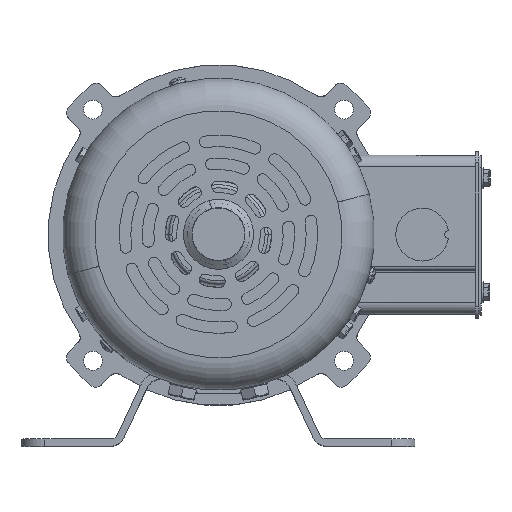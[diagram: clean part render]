
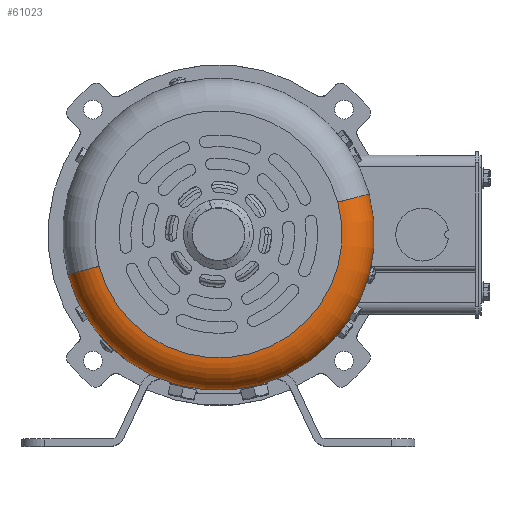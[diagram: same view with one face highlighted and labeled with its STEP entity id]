
A CAD part, top view. The second image highlights one B-rep face of the part: STEP entity #61023.
In plain terms, the highlighted toroidal (fillet/blend) face has major radius 51.943 mm and minor radius 13.589 mm.
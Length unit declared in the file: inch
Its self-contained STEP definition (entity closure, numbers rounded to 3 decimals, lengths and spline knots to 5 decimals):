
#173 = DIRECTION ( 'NONE',  ( 0.966, 0.259, 0. ) ) ;
#650 = AXIS2_PLACEMENT_3D ( 'NONE', #119745, #100584, #26594 ) ;
#9545 = DIRECTION ( 'NONE',  ( 0., 0., 1. ) ) ;
#13272 = CARTESIAN_POINT ( 'NONE',  ( 0., 0., 11.27556 ) ) ;
#15817 = ORIENTED_EDGE ( 'NONE', *, *, #93197, .F. ) ;
#16713 = CIRCLE ( 'NONE', #22767, 2.045 ) ;
#19947 = TOROIDAL_SURFACE ( 'NONE', #650, 2.045, 0.535 ) ;
#22044 = CARTESIAN_POINT ( 'NONE',  ( -1.97532, -0.52928, 11.27556 ) ) ;
#22442 = DIRECTION ( 'NONE',  ( -0.259, 0.966, 0. ) ) ;
#22767 = AXIS2_PLACEMENT_3D ( 'NONE', #104762, #9545, #56517 ) ;
#25986 = VERTEX_POINT ( 'NONE', #72223 ) ;
#26594 = DIRECTION ( 'NONE',  ( 0.966, 0.259, 0. ) ) ;
#28761 = DIRECTION ( 'NONE',  ( 0.259, -0.966, 0. ) ) ;
#29326 = CARTESIAN_POINT ( 'NONE',  ( 1.97532, 0.52928, 11.81056 ) ) ;
#34635 = AXIS2_PLACEMENT_3D ( 'NONE', #22044, #22442, #88663 ) ;
#47063 = EDGE_CURVE ( 'NONE', #92994, #89850, #63240, .T. ) ;
#54654 = CIRCLE ( 'NONE', #82389, 2.58 ) ;
#56517 = DIRECTION ( 'NONE',  ( 0.966, 0.259, 0. ) ) ;
#58238 = CARTESIAN_POINT ( 'NONE',  ( -2.49209, -0.66775, 11.27556 ) ) ;
#61023 = ADVANCED_FACE ( 'NONE', ( #81423 ), #19947, .T. ) ;
#61740 = CIRCLE ( 'NONE', #86134, 0.535 ) ;
#63240 = CIRCLE ( 'NONE', #34635, 0.535 ) ;
#65041 = ORIENTED_EDGE ( 'NONE', *, *, #47063, .F. ) ;
#71813 = CARTESIAN_POINT ( 'NONE',  ( -1.97532, -0.52928, 11.81056 ) ) ;
#72223 = CARTESIAN_POINT ( 'NONE',  ( 2.49209, 0.66775, 11.27556 ) ) ;
#74106 = EDGE_CURVE ( 'NONE', #25986, #102803, #61740, .T. ) ;
#78050 = ORIENTED_EDGE ( 'NONE', *, *, #74106, .T. ) ;
#80258 = DIRECTION ( 'NONE',  ( 0.966, 0.259, 0. ) ) ;
#81423 = FACE_OUTER_BOUND ( 'NONE', #97857, .T. ) ;
#82389 = AXIS2_PLACEMENT_3D ( 'NONE', #13272, #88417, #80258 ) ;
#84731 = CARTESIAN_POINT ( 'NONE',  ( 1.97532, 0.52928, 11.27556 ) ) ;
#86134 = AXIS2_PLACEMENT_3D ( 'NONE', #84731, #28761, #173 ) ;
#88417 = DIRECTION ( 'NONE',  ( 0., 0., -1. ) ) ;
#88663 = DIRECTION ( 'NONE',  ( -0.966, -0.259, 0. ) ) ;
#89850 = VERTEX_POINT ( 'NONE', #71813 ) ;
#92994 = VERTEX_POINT ( 'NONE', #58238 ) ;
#93197 = EDGE_CURVE ( 'NONE', #89850, #102803, #16713, .T. ) ;
#95382 = EDGE_CURVE ( 'NONE', #25986, #92994, #54654, .T. ) ;
#97857 = EDGE_LOOP ( 'NONE', ( #65041, #111363, #78050, #15817 ) ) ;
#100584 = DIRECTION ( 'NONE',  ( 0., 0., 1. ) ) ;
#102803 = VERTEX_POINT ( 'NONE', #29326 ) ;
#104762 = CARTESIAN_POINT ( 'NONE',  ( 0., 0., 11.81056 ) ) ;
#111363 = ORIENTED_EDGE ( 'NONE', *, *, #95382, .F. ) ;
#119745 = CARTESIAN_POINT ( 'NONE',  ( 0., 0., 11.27556 ) ) ;
